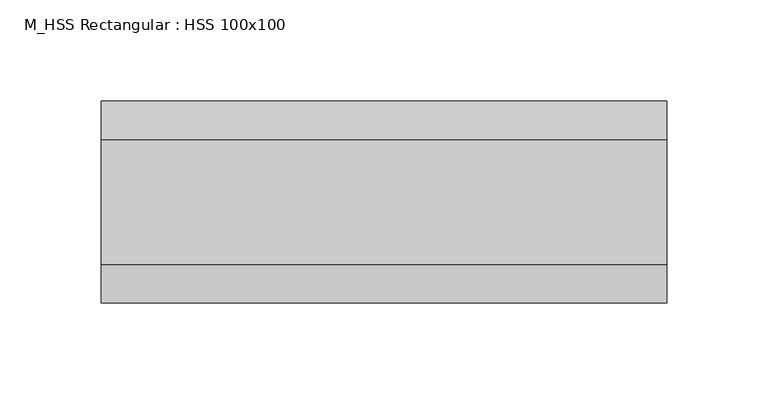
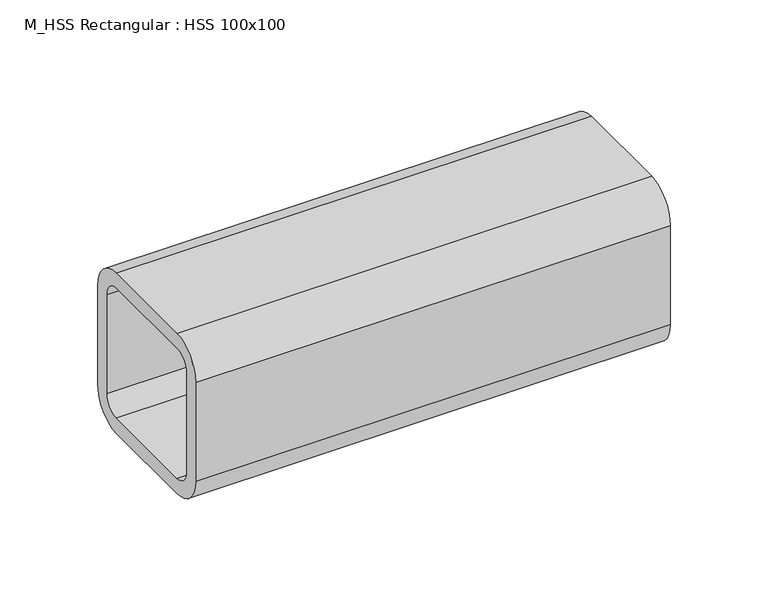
"""IFC4 building model written with IfcOpenShell, lengths in millimetres: beam geometry, M_HSS Rectangular : HSS 100x100."""

from ifc_helpers import new_model, si_unit, point, frame, frame_2d, origin, place, context, project, spatial, polyline, circle_curve, trimmed, segment, composite_curve, outline, extrude, source, transform, mapped, element, save


def m_hss_rectangular_hss_100x100_54f2d0bd(model_context):
    return source(origin(), model_context, "Body", "SweptSolid", [
        extrude(outline(composite_curve([segment(polyline([(50.0, 30.94), (50.0, -30.94)]), True, "CONTINUOUS"), segment(trimmed(circle_curve(frame_2d((30.94, -30.94)), 19.06), [point((50.0, -30.94))], [point((30.94, -50.0))], False, "CARTESIAN"), True, "CONTINUOUS"), segment(polyline([(30.94, -50.0), (-30.94, -50.0)]), True, "CONTINUOUS"), segment(trimmed(circle_curve(frame_2d((-30.94, -30.94)), 19.06), [point((-30.94, -50.0))], [point((-50.0, -30.94))], False, "CARTESIAN"), True, "CONTINUOUS"), segment(polyline([(-50.0, -30.94), (-50.0, 30.94)]), True, "CONTINUOUS"), segment(trimmed(circle_curve(frame_2d((-30.94, 30.94)), 19.06), [point((-50.0, 30.94))], [point((-30.94, 50.0))], False, "CARTESIAN"), True, "CONTINUOUS"), segment(polyline([(-30.94, 50.0), (30.94, 50.0)]), True, "CONTINUOUS"), segment(trimmed(circle_curve(frame_2d((30.94, 30.94)), 19.06), [point((30.94, 50.0))], [point((50.0, 30.94))], False, "CARTESIAN"), True, "CONTINUOUS")], self_intersect=False), holes=[composite_curve([segment(trimmed(circle_curve(frame_2d((-30.94, 30.94)), 9.53), [point((-30.94, 40.47))], [point((-40.47, 30.94))], True, "CARTESIAN"), True, "CONTINUOUS"), segment(polyline([(-40.47, 30.94), (-40.47, -30.94)]), True, "CONTINUOUS"), segment(trimmed(circle_curve(frame_2d((-30.94, -30.94)), 9.53), [point((-40.47, -30.94))], [point((-30.94, -40.47))], True, "CARTESIAN"), True, "CONTINUOUS"), segment(polyline([(-30.94, -40.47), (30.94, -40.47)]), True, "CONTINUOUS"), segment(trimmed(circle_curve(frame_2d((30.94, -30.94)), 9.53), [point((30.94, -40.47))], [point((40.47, -30.94))], True, "CARTESIAN"), True, "CONTINUOUS"), segment(polyline([(40.47, -30.94), (40.47, 30.94)]), True, "CONTINUOUS"), segment(trimmed(circle_curve(frame_2d((30.94, 30.94)), 9.53), [point((40.47, 30.94))], [point((30.94, 40.47))], True, "CARTESIAN"), True, "CONTINUOUS"), segment(polyline([(30.94, 40.47), (-30.94, 40.47)]), True, "CONTINUOUS")], self_intersect=False)]), frame((-190.05, 0.0, 0.0), z_axis=(1.0, 0.0, 0.0), x_axis=(0.0, 1.0, 0.0)), (0.0, 0.0, 1.0), 280.1),
    ])


if __name__ == "__main__":
    model = new_model("IFC4")
    model_context = context("Model", 3, world=origin())
    ifc_project = project(units=[si_unit("LENGTHUNIT", "METRE", prefix="MILLI")], contexts=[model_context])
    site = spatial("IfcSite", under=ifc_project)
    building = spatial("IfcBuilding", under=site)
    placement = place(None, origin())
    m_hss_rectangular_hss_100x100_shape = m_hss_rectangular_hss_100x100_54f2d0bd(model_context)
    element("IfcBeam", 1, ObjectType="M_HSS Rectangular : HSS 100x100", at=placement, inside=building, context=model_context, shape_type="MappedRepresentation", body=[
        mapped(m_hss_rectangular_hss_100x100_shape, transform((0.0, 0.0, 0.0), x_axis=(1.0, 0.0, 0.0), y_axis=(0.0, 1.0, 0.0), z_axis=(0.0, 0.0, 1.0))),
    ])
    save(model, "model.ifc")
